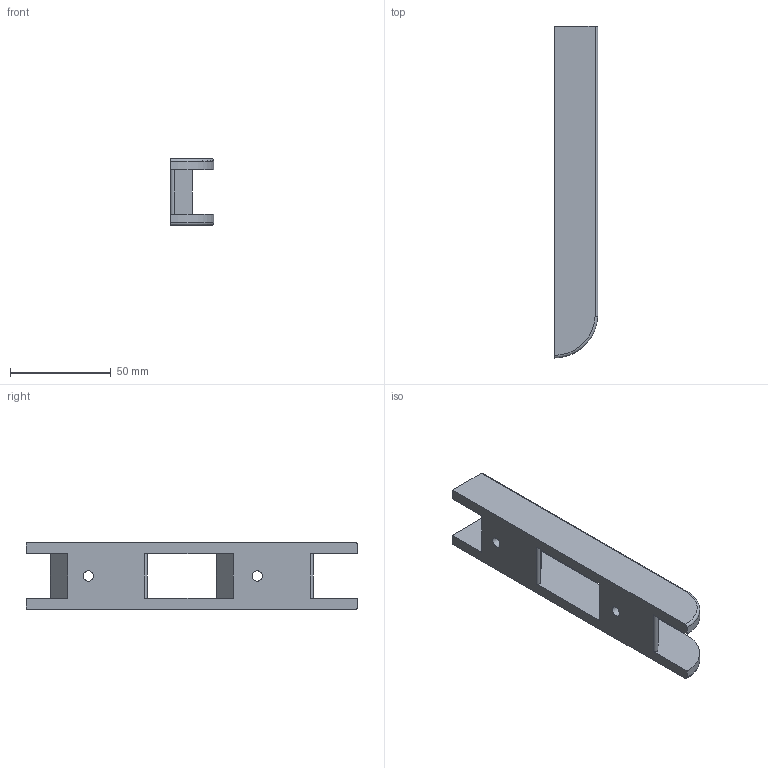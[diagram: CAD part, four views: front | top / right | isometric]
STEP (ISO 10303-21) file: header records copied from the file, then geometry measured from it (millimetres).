
FILE_DESCRIPTION(/* description */ ('STEP AP242','CAx-IF Rec.Pracs.---Representation and Presentation of Product Manufacturing Information (PMI)---4.0---2014-10-13','CAx-IF Rec.Pracs.---3D Tessellated Geometry---0.4---2014-09-14','2;1'),/* implementation_level */ '2;1');
FILE_NAME(/* name */ '677e13f2248f3576865291c4',/* time_stamp */ '2025-01-08T05:58:10Z',/* author */ (''),/* organization */ (''),/* preprocessor_version */ 'ST-DEVELOPER v20',/* originating_system */ 'ONSHAPE BY PTC INC, 1.191',/* authorisation */ ' ');
FILE_SCHEMA (('AP242_MANAGED_MODEL_BASED_3D_ENGINEERING_MIM_LF { 1 0 10303 442 1 1 4 }'));
Length unit declared in the file: metre
Products named in the file (1): Wall Bracket-6.5
Bounding box: 21.59 x 165.1 x 33.02 mm (x, y, z)
Volume: 55769.8 mm3; surface area: 20922.2 mm2
Topology: 1 solids, 1 shells, 33 faces, 88 edges, 58 vertices
Faces by surface type: plane 17, cylinder 12, torus 2, cone 2
Full cylindrical faces by diameter (mm): 5.08 x2, 12.7 x2
Entity records: 1024 total; most frequent: CARTESIAN_POINT 178, DIRECTION 174, ORIENTED_EDGE 160, EDGE_CURVE 80, AXIS2_PLACEMENT_3D 62, VERTEX_POINT 56, LINE 50, VECTOR 50
